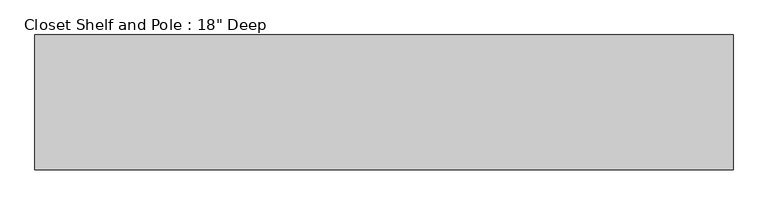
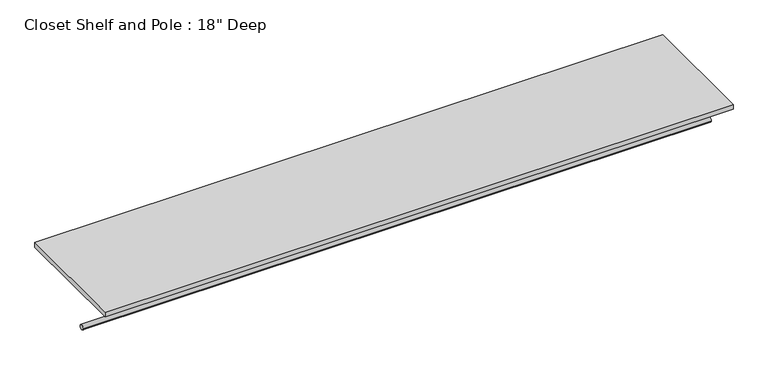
"""IFC4 building model written with IfcOpenShell, lengths in millimetres: proxy geometry."""

from ifc_helpers import new_model, si_unit, point, frame, frame_2d, origin, place, context, project, spatial, polyline, circle_curve, trimmed, segment, composite_curve, outline, extrude, source, transform, mapped, element, save


def proxy_c144d572(model_context):
    return source(origin(), model_context, "Body", "SweptSolid", [
        extrude(outline(composite_curve([segment(trimmed(circle_curve(frame_2d((-304.8, 1676.4)), 9.525), [point((-314.325, 1676.4))], [point((-295.275, 1676.4))], False, "CARTESIAN"), True, "CONTINUOUS"), segment(trimmed(circle_curve(frame_2d((-304.8, 1676.4)), 9.525), [point((-295.275, 1676.4))], [point((-314.325, 1676.4))], False, "CARTESIAN"), True, "CONTINUOUS")], self_intersect=False)), frame((0.0, 0.0, 0.0), z_axis=(1.0, 0.0, 0.0), x_axis=(0.0, 1.0, 0.0)), (0.0, 0.0, 1.0), 2365.375),
        extrude(outline(polyline([(2365.375, 0.0), (2365.375, -457.2), (0.0, -457.2), (0.0, 0.0), (2365.375, 0.0)])), frame((0.0, 0.0, 1809.75), z_axis=(0.0, 0.0, 1.0), x_axis=(1.0, 0.0, 0.0)), (0.0, 0.0, 1.0), 19.05),
    ])


if __name__ == "__main__":
    model = new_model("IFC4")
    model_context = context("Model", 3, world=origin())
    ifc_project = project(units=[si_unit("LENGTHUNIT", "METRE", prefix="MILLI")], contexts=[model_context])
    site = spatial("IfcSite", under=ifc_project)
    building = spatial("IfcBuilding", under=site)
    placement = place(None, origin())
    proxy_shape = proxy_c144d572(model_context)
    element("IfcBuildingElementProxy", 1, Name="Closet Shelf and Pole : 18\" Deep", ObjectType="Closet Shelf and Pole : 18\" Deep", at=placement, inside=building, context=model_context, shape_type="MappedRepresentation", body=[
        mapped(proxy_shape, transform((0.0, 0.0, 0.0), x_axis=(1.0, 0.0, 0.0), y_axis=(0.0, 1.0, 0.0), z_axis=(0.0, 0.0, 1.0))),
    ])
    save(model, "model.ifc")
